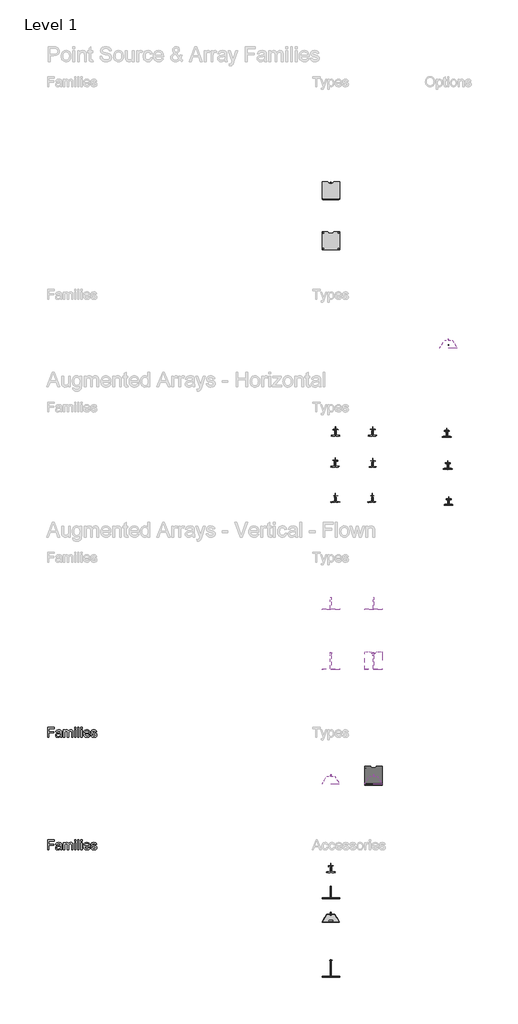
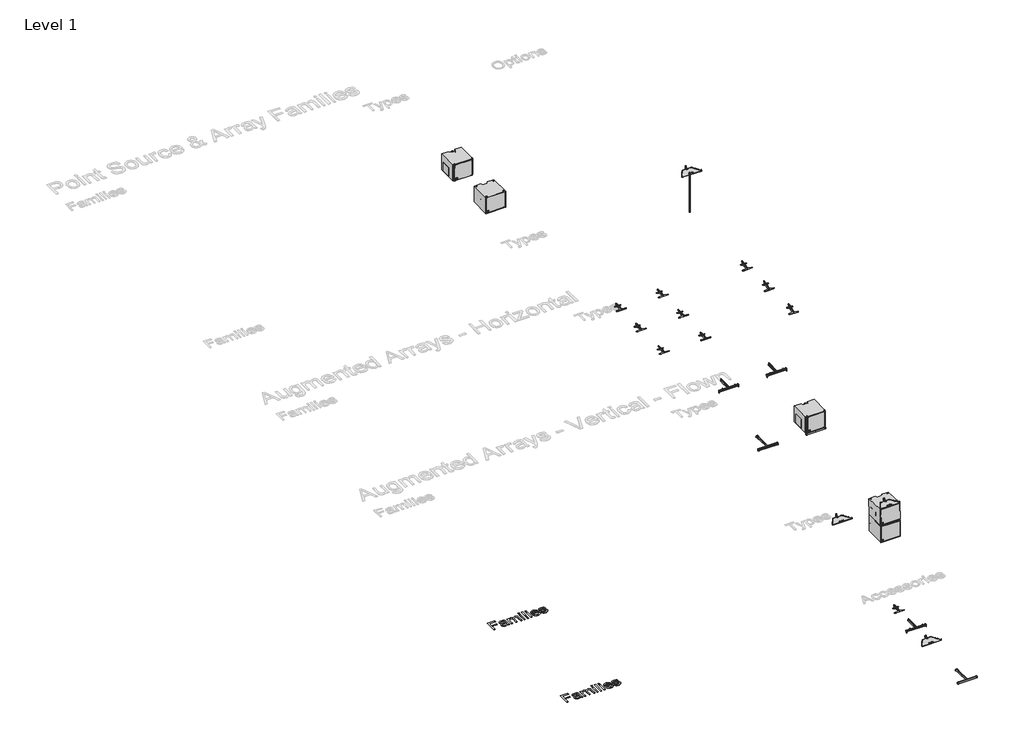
# One storey, part 1 of 9: 28 proxies.
"""IFC4 building model written with IfcOpenShell, lengths in millimetres."""

from ifc_helpers import new_model, si_unit, origin, origin_with_axes, place, context, project, spatial, polyline, outline, extrude, transform, mapped, element, save
from components import communication_devices_d743389a, communication_devices_1f0d5030, communication_devices_29ca18c5, communication_devices_07eabc64, communication_devices_387f4dd8, communication_devices_ca37ca75, al_base_plate_bf33ff07, vi_sub_f1fbe36c

model = new_model("IFC4")

# Units and contexts
model_context = context("Model", 3, world=origin())
ifc_project = project(units=[si_unit("LENGTHUNIT", "METRE", prefix="MILLI")], contexts=[model_context])

# Site, building, storey
site = spatial("IfcSite", under=ifc_project)
building = spatial("IfcBuilding", under=site)
storey = spatial("IfcBuildingStorey", under=building, Name="Level 1", Elevation=0.0)

# Proxies
placement = place(None, origin())
communication_devices_shape = communication_devices_d743389a(model_context)
element("IfcBuildingElementProxy", 1, Name="d&b V-Series GSUB Subwoofer : Vi-GSUB", ObjectType="d&b V-Series GSUB Subwoofer : Vi-GSUB", at=placement, inside=storey, context=model_context, shape_type="MappedRepresentation", body=[
    mapped(communication_devices_shape, transform((-9741.6434304, 11188.2017676, 303.0), x_axis=(1.0, 0.0, 0.0), y_axis=(0.0, 1.0, 0.0), z_axis=(0.0, 0.0, 1.0))),
])
communication_devices_2_shape = communication_devices_1f0d5030(model_context)
element("IfcBuildingElementProxy", 2, Name="d&b A-Series Flying Adapter : AL Flying Adapter", ObjectType="d&b A-Series Flying Adapter : AL Flying Adapter", at=placement, inside=storey, context=model_context, shape_type="MappedRepresentation", body=[
    mapped(communication_devices_2_shape, transform((-9741.6434304, -14065.5323526, 0.0), x_axis=(1.0, 0.0, 0.0), y_axis=(0.0, 1.0, 0.0), z_axis=(0.0, 0.0, 1.0))),
])
element("IfcBuildingElementProxy", 3, Name="d&b A-Series Flying Adapter : AL Flying Adapter", ObjectType="d&b A-Series Flying Adapter : AL Flying Adapter", at=placement, inside=storey, context=model_context, shape_type="MappedRepresentation", body=[
    mapped(communication_devices_2_shape, transform((-9556.9615266, 3383.2751554, 700.0), x_axis=(0.9999973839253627, -0.00228738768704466, 0.0), y_axis=(0.00228738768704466, 0.9999973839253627, 0.0), z_axis=(0.0, 0.0, 1.0))),
])
element("IfcBuildingElementProxy", 4, Name="d&b A-Series Flying Adapter : AL Flying Adapter", ObjectType="d&b A-Series Flying Adapter : AL Flying Adapter", at=placement, inside=storey, context=model_context, shape_type="MappedRepresentation", body=[
    mapped(communication_devices_2_shape, transform((-8070.568607, 3383.2833382, 700.0), x_axis=(1.0000000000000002, 0.0, 0.0), y_axis=(0.0, 1.0000000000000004, 0.0), z_axis=(0.0, 0.0, 1.0000000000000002))),
])
element("IfcBuildingElementProxy", 5, Name="d&b A-Series Flying Adapter : AL Flying Adapter", ObjectType="d&b A-Series Flying Adapter : AL Flying Adapter", at=placement, inside=storey, context=model_context, shape_type="MappedRepresentation", body=[
    mapped(communication_devices_2_shape, transform((-9569.4106275, 2143.3603719, 700.0), x_axis=(0.9999596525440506, -0.008982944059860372, 0.0), y_axis=(0.008982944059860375, 0.999959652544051, 0.0), z_axis=(0.0, 0.0, 1.0000000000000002))),
])
element("IfcBuildingElementProxy", 6, Name="d&b A-Series Flying Adapter : AL Flying Adapter", ObjectType="d&b A-Series Flying Adapter : AL Flying Adapter", at=placement, inside=storey, context=model_context, shape_type="MappedRepresentation", body=[
    mapped(communication_devices_2_shape, transform((-8072.1435806, 2129.9919161, 700.0), x_axis=(0.9999596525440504, -0.008982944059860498, 0.0), y_axis=(0.008982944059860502, 0.9999596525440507, 0.0), z_axis=(0.0, 0.0, 1.0000000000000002))),
])
element("IfcBuildingElementProxy", 7, Name="d&b A-Series Flying Adapter : AL Flying Adapter", ObjectType="d&b A-Series Flying Adapter : AL Flying Adapter", at=placement, inside=storey, context=model_context, shape_type="MappedRepresentation", body=[
    mapped(communication_devices_2_shape, transform((-9566.0910558, 732.3702572, 700.0), x_axis=(1.0000000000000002, 0.0, 0.0), y_axis=(0.0, 1.0000000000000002, 0.0), z_axis=(0.0, 0.0, 1.0))),
])
element("IfcBuildingElementProxy", 8, Name="d&b A-Series Flying Adapter : AL Flying Adapter", ObjectType="d&b A-Series Flying Adapter : AL Flying Adapter", at=placement, inside=storey, context=model_context, shape_type="MappedRepresentation", body=[
    mapped(communication_devices_2_shape, transform((-5035.4452188, 617.9984364, 671.5161872), x_axis=(0.9959601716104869, 0.015076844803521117, -0.08852132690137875), y_axis=(0.01507684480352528, 0.9437324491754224, 0.33036608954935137), z_axis=(0.08852132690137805, -0.3303660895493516, 0.9396926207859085))),
])
element("IfcBuildingElementProxy", 9, Name="d&b A-Series Flying Adapter : AL Flying Adapter", ObjectType="d&b A-Series Flying Adapter : AL Flying Adapter", at=placement, inside=storey, context=model_context, shape_type="MappedRepresentation", body=[
    mapped(communication_devices_2_shape, transform((-5070.2233417, 2052.336386, 691.4233736), x_axis=(0.9999596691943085, -0.008981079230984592, -1.4165346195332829e-05), y_axis=(0.008678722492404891, 0.9658868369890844, 0.2588190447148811), z_axis=(-0.002310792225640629, -0.25880872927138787, 0.9659258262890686))),
])
element("IfcBuildingElementProxy", 10, Name="d&b A-Series Flying Adapter : AL Flying Adapter", ObjectType="d&b A-Series Flying Adapter : AL Flying Adapter", at=placement, inside=storey, context=model_context, shape_type="MappedRepresentation", body=[
    mapped(communication_devices_2_shape, transform((-5107.1147375, 3333.9786751, 702.8520893), x_axis=(0.9998666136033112, -0.001417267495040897, 0.016271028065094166), y_axis=(-0.00141726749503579, 0.9849411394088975, 0.17288419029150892), z_axis=(-0.016271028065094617, -0.1728841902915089, 0.9848077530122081))),
])
element("IfcBuildingElementProxy", 11, Name="d&b A-Series Flying Adapter : AL Flying Adapter", ObjectType="d&b A-Series Flying Adapter : AL Flying Adapter", at=placement, inside=storey, context=model_context, shape_type="MappedRepresentation", body=[
    mapped(communication_devices_2_shape, transform((-8084.6011527, 732.3702572, 700.0), x_axis=(1.0000000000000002, 0.0, 0.0), y_axis=(0.0, 1.0000000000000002, 0.0), z_axis=(0.0, 0.0, 1.0))),
])
communication_devices_3_shape = communication_devices_29ca18c5(model_context)
communication_devices_4_shape = communication_devices_07eabc64(model_context)
element("IfcBuildingElementProxy", 12, Name="d&b A-Series Flying Frame : AL Flying Frame", ObjectType="d&b A-Series Flying Frame : AL Flying Frame", at=placement, inside=storey, context=model_context, shape_type="MappedRepresentation", body=[
    mapped(communication_devices_3_shape, transform((-9741.6434304, -15083.7359869, 0.0), x_axis=(1.0, 0.0, 0.0), y_axis=(0.0, 1.0, 0.0), z_axis=(0.0, 0.0, 1.0))),
    mapped(communication_devices_4_shape, transform((-9741.6434304, -15083.7359869, 0.0), x_axis=(1.0, 0.0, 0.0), y_axis=(0.0, 1.0, 0.0), z_axis=(0.0, 0.0, 1.0))),
])
element("IfcBuildingElementProxy", 13, Name="d&b A-Series Flying Frame : AL Flying Frame", ObjectType="d&b A-Series Flying Frame : AL Flying Frame", at=placement, inside=storey, context=model_context, shape_type="MappedRepresentation", body=[
    mapped(communication_devices_3_shape, transform((-9741.6434304, -3539.251531, 2023.0215661), x_axis=(1.0000000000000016, 0.0, 0.0), y_axis=(0.0, 1.0000000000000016, 0.0), z_axis=(0.0, 0.0, 1.0))),
    mapped(communication_devices_4_shape, transform((-9741.6434304, -3539.251531, 2023.0215661), x_axis=(1.0000000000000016, 0.0, 0.0), y_axis=(0.0, 1.0000000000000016, 0.0), z_axis=(0.0, 0.0, 1.0))),
])
element("IfcBuildingElementProxy", 14, Name="d&b A-Series Flying Frame : AL Flying Frame", ObjectType="d&b A-Series Flying Frame : AL Flying Frame", at=placement, inside=storey, context=model_context, shape_type="MappedRepresentation", body=[
    mapped(communication_devices_3_shape, transform((-8041.6434304, -3539.251531, 2023.0215661), x_axis=(1.0000000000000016, 0.0, 0.0), y_axis=(0.0, 1.0000000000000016, 0.0), z_axis=(0.0, 0.0, 1.0))),
    mapped(communication_devices_4_shape, transform((-8041.6434304, -3539.251531, 2023.0215661), x_axis=(1.0000000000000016, 0.0, 0.0), y_axis=(0.0, 1.0000000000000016, 0.0), z_axis=(0.0, 0.0, 1.0))),
])
element("IfcBuildingElementProxy", 15, Name="d&b V-Series GSUB Subwoofer : Vi-GSUB", ObjectType="d&b V-Series GSUB Subwoofer : Vi-GSUB", at=placement, inside=storey, context=model_context, shape_type="MappedRepresentation", body=[
    mapped(communication_devices_shape, transform((-8041.6434304, -10201.2028001, 306.0), x_axis=(1.0000000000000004, 0.0, 0.0), y_axis=(0.0, 1.0000000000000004, 0.0), z_axis=(0.0, 0.0, 1.0))),
])
element("IfcBuildingElementProxy", 16, Name="d&b V-Series GSUB Subwoofer : Vi-GSUB", ObjectType="d&b V-Series GSUB Subwoofer : Vi-GSUB", at=placement, inside=storey, context=model_context, shape_type="MappedRepresentation", body=[
    mapped(communication_devices_shape, transform((-8041.6434304, -10185.1115021, 922.2337467), x_axis=(1.0000000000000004, 0.0, 0.0), y_axis=(0.0, 0.9990482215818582, -0.043619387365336), z_axis=(0.0, 0.04361938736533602, 0.9990482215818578))),
])
communication_devices_5_shape = communication_devices_387f4dd8(model_context)
element("IfcBuildingElementProxy", 17, Name="d&b A-Series AL V-SUB Adapter : AL V-SUB Adapter", ObjectType="d&b A-Series AL V-SUB Adapter : AL V-SUB Adapter", at=placement, inside=storey, context=model_context, shape_type="MappedRepresentation", body=[
    mapped(communication_devices_5_shape, transform((-9741.6434304, -18236.0913937, 0.0), x_axis=(1.0, 0.0, 0.0), y_axis=(0.0, 1.0, 0.0), z_axis=(0.0, 0.0, 1.0))),
])
element("IfcBuildingElementProxy", 18, Name="d&b A-Series AL V-SUB Adapter : AL V-SUB Adapter", ObjectType="d&b A-Series AL V-SUB Adapter : AL V-SUB Adapter", at=placement, inside=storey, context=model_context, shape_type="MappedRepresentation", body=[
    mapped(communication_devices_5_shape, transform((-9741.6434304, -5949.4528001, 1326.0), x_axis=(1.0000000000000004, 0.0, 0.0), y_axis=(0.0, 1.0000000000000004, 0.0), z_axis=(0.0, 0.0, 1.0))),
])
element("IfcBuildingElementProxy", 19, Name="d&b A-Series AL V-SUB Adapter : AL V-SUB Adapter", ObjectType="d&b A-Series AL V-SUB Adapter : AL V-SUB Adapter", at=placement, inside=storey, context=model_context, shape_type="MappedRepresentation", body=[
    mapped(communication_devices_5_shape, transform((-8041.6434304, -5949.4528001, 1326.0), x_axis=(1.0000000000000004, 0.0, 0.0), y_axis=(0.0, 1.0000000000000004, 0.0), z_axis=(0.0, 0.0, 1.0))),
])
communication_devices_6_shape = communication_devices_ca37ca75(model_context)
element("IfcBuildingElementProxy", 20, Name="Loudspeaker Stand : Loudspeaker Stand", ObjectType="Loudspeaker Stand : Loudspeaker Stand", at=placement, inside=storey, context=model_context, shape_type="MappedRepresentation", body=[
    mapped(communication_devices_6_shape, transform((-5041.6434304, 7023.4987875, 603.0), x_axis=(-1.0000000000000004, 0.0, 0.0), y_axis=(0.0, -1.0000000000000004, 0.0), z_axis=(0.0, 0.0, 1.0))),
])
element("IfcBuildingElementProxy", 21, Name="400mm Arial", ObjectType="400mm Arial", at=placement, inside=storey, context=model_context, shape_type="SweptSolid", body=[
    extrude(outline(polyline([(-21056.720891, -8648.6945164), (-21056.720891, -8256.9369407), (-20793.5087698, -8256.9369407), (-20793.5087698, -8305.9066376), (-21007.7511941, -8305.9066376), (-21007.7511941, -8422.2096679), (-20824.1148304, -8422.2096679), (-20824.1148304, -8471.1793649), (-21007.7511941, -8471.1793649), (-21007.7511941, -8648.6945164), (-21056.720891, -8648.6945164)])), origin_with_axes(), (0.0, 0.0, 1.0), 5.0),
    extrude(outline(polyline([(-20548.660285, -8611.9672437), (-20572.0571836, -8632.02856), (-20596.1475009, -8645.1556907), (-20621.4811893, -8652.4007191), (-20648.6082016, -8654.8157285), (-20670.4120309, -8653.3631362), (-20689.5318522, -8649.0053592), (-20705.9676654, -8641.7423976), (-20719.7194706, -8631.5742513), (-20730.5780466, -8619.1465169), (-20738.3341723, -8605.104791), (-20742.9878477, -8589.4490737), (-20744.5390729, -8572.1793649), (-20742.1957963, -8551.8789388), (-20735.1659668, -8533.4435695), (-20724.3223352, -8517.6623195), (-20710.5376524, -8505.3242513), (-20676.2493001, -8489.2560695), (-20633.879035, -8481.8914861), (-20583.8094327, -8474.144327), (-20548.9472168, -8465.0581528), (-20548.660285, -8454.1547437), (-20552.0317338, -8432.3001035), (-20562.1460804, -8418.0013346), (-20584.7658721, -8407.3848573), (-20616.2805501, -8403.8460316), (-20645.4519516, -8406.2012636), (-20665.8241107, -8413.2669596), (-20679.7163929, -8426.3343128), (-20689.4481638, -8446.6945164), (-20738.4178607, -8440.5733043), (-20729.9175056, -8413.7930013), (-20717.2327282, -8392.7513346), (-20699.1799346, -8376.6592418), (-20674.5755312, -8364.7276604), (-20644.4835568, -8357.339166), (-20609.9680501, -8354.8763346), (-20576.8632916, -8357.0522342), (-20550.6209857, -8363.5799331), (-20530.8346458, -8373.3953924), (-20517.097785, -8385.4345732), (-20507.9876997, -8400.3191613), (-20502.0816865, -8418.6708422), (-20499.690588, -8461.519327), (-20499.690588, -8522.4445164), (-20497.2038456, -8607.5198005), (-20487.4481638, -8648.6945164), (-20536.4178607, -8648.6945164), (-20544.2606638, -8631.6698952), (-20548.660285, -8611.9672437)]), holes=[polyline([(-20548.660285, -8514.0278498), (-20581.5618001, -8522.1814956), (-20627.6621789, -8529.0439482), (-20669.7933342, -8536.9823952), (-20680.7565208, -8542.4101888), (-20688.8743001, -8549.894327), (-20693.8956069, -8558.8609464), (-20695.5693759, -8568.7361831), (-20691.9229507, -8583.2979729), (-20680.9836751, -8595.2295543), (-20662.990659, -8603.1919123), (-20638.1830122, -8605.8460316), (-20611.8809289, -8602.9169359), (-20588.6394516, -8594.129649), (-20569.7975956, -8581.1818507), (-20556.6943759, -8565.771221), (-20550.8840066, -8549.894327), (-20548.9472168, -8527.896221), (-20548.660285, -8514.0278498)])]), origin_with_axes(), (0.0, 0.0, 1.0), 5.0),
    extrude(outline(polyline([(-20432.3572547, -8648.6945164), (-20432.3572547, -8360.9975467), (-20383.3875577, -8360.9975467), (-20383.3875577, -8408.3412967), (-20368.658391, -8386.594256), (-20349.720891, -8369.5576793), (-20327.2206543, -8358.5466708), (-20301.8032774, -8354.8763346), (-20274.5686657, -8358.6184037), (-20252.7379365, -8369.8446111), (-20236.4306448, -8387.8137162), (-20225.7663456, -8411.7844785), (-20207.9167954, -8386.8871656), (-20187.5565918, -8369.1033706), (-20164.6857348, -8358.4330936), (-20139.3042244, -8354.8763346), (-20119.7002057, -8356.3558268), (-20102.4932632, -8360.7943034), (-20087.683397, -8368.1917643), (-20075.2706069, -8378.5482096), (-20065.4581365, -8391.9831942), (-20058.4492291, -8408.6162731), (-20054.2438846, -8428.4474461), (-20052.8421032, -8451.4767134), (-20052.8421032, -8648.6945164), (-20101.8118001, -8648.6945164), (-20101.8118001, -8472.5183801), (-20106.3548872, -8431.630596), (-20112.7391202, -8420.3565666), (-20122.8056448, -8411.4975467), (-20135.7534431, -8405.7589104), (-20150.7814971, -8403.8460316), (-20177.3107348, -8408.7477835), (-20198.9382206, -8423.4530392), (-20207.3279874, -8434.7330463), (-20213.320678, -8448.96606), (-20218.1148304, -8486.2911073), (-20218.1148304, -8648.6945164), (-20267.0845274, -8648.6945164), (-20267.0845274, -8467.0666755), (-20269.9179791, -8439.3777551), (-20278.4183342, -8419.6272816), (-20293.3746552, -8407.7913441), (-20315.5760047, -8403.8460316), (-20334.4417717, -8406.4762399), (-20351.8250577, -8414.3668649), (-20366.1716486, -8427.3266187), (-20375.9273304, -8445.1642134), (-20381.5225009, -8469.9120827), (-20383.3875577, -8503.6026604), (-20383.3875577, -8648.6945164), (-20432.3572547, -8648.6945164)])), origin_with_axes(), (0.0, 0.0, 1.0), 5.0),
    extrude(outline(polyline([(-19979.3875577, -8648.6945164), (-19979.3875577, -8360.9975467), (-19930.4178607, -8360.9975467), (-19930.4178607, -8648.6945164), (-19979.3875577, -8648.6945164)])), origin_with_axes(), (0.0, 0.0, 1.0), 5.0),
    extrude(outline(polyline([(-19979.3875577, -8305.9066376), (-19979.3875577, -8256.9369407), (-19930.4178607, -8256.9369407), (-19930.4178607, -8305.9066376), (-19979.3875577, -8305.9066376)])), origin_with_axes(), (0.0, 0.0, 1.0), 5.0),
    extrude(outline(polyline([(-19856.9633153, -8648.6945164), (-19856.9633153, -8256.9369407), (-19807.9936183, -8256.9369407), (-19807.9936183, -8648.6945164), (-19856.9633153, -8648.6945164)])), origin_with_axes(), (0.0, 0.0, 1.0), 5.0),
    extrude(outline(polyline([(-19734.5390729, -8648.6945164), (-19734.5390729, -8360.9975467), (-19685.5693759, -8360.9975467), (-19685.5693759, -8648.6945164), (-19734.5390729, -8648.6945164)])), origin_with_axes(), (0.0, 0.0, 1.0), 5.0),
    extrude(outline(polyline([(-19734.5390729, -8305.9066376), (-19734.5390729, -8256.9369407), (-19685.5693759, -8256.9369407), (-19685.5693759, -8305.9066376), (-19734.5390729, -8305.9066376)])), origin_with_axes(), (0.0, 0.0, 1.0), 5.0),
    extrude(outline(polyline([(-19410.6886941, -8562.9975467), (-19362.6754365, -8569.1187589), (-19370.0370309, -8588.3491684), (-19379.975034, -8605.2960789), (-19392.4894457, -8619.9594904), (-19407.580266, -8632.3394028), (-19425.0920736, -8642.1727953), (-19444.8694469, -8649.1966471), (-19491.220891, -8654.8157285), (-19521.605775, -8652.3917525), (-19548.6789876, -8645.1198242), (-19572.4405288, -8632.9999437), (-19592.8903986, -8616.0321111), (-19609.3351784, -8594.6885683), (-19621.0814497, -8569.4415571), (-19628.1292125, -8540.2910777), (-19630.4784668, -8507.2371301), (-19628.1053015, -8473.062355), (-19620.9858058, -8442.9404918), (-19609.1199796, -8416.8715406), (-19592.5078229, -8394.8555013), (-19572.1117528, -8377.3646159), (-19548.8941865, -8364.8711263), (-19522.855124, -8357.3750325), (-19493.9945653, -8354.8763346), (-19466.0635461, -8357.3690548), (-19440.8045795, -8364.8472153), (-19418.2176654, -8377.3108161), (-19398.3028039, -8394.7598573), (-19382.0463231, -8416.7280747), (-19370.4345511, -8442.7492039), (-19363.4674879, -8472.8232451), (-19361.1451335, -8506.9501982), (-19361.4320653, -8520.1490619), (-19581.5087698, -8520.1490619), (-19578.6723292, -8539.6903142), (-19573.0323257, -8556.8046017), (-19564.5887592, -8571.4919241), (-19553.3416297, -8583.7522816), (-19524.9234242, -8600.3225941), (-19490.2644516, -8605.8460316), (-19464.2014782, -8603.2875562), (-19442.2511941, -8595.6121301), (-19424.4135994, -8582.3415335), (-19410.6886941, -8562.9975467)]), holes=[polyline([(-19581.5087698, -8471.1793649), (-19410.1148304, -8471.1793649), (-19416.7381732, -8445.3076793), (-19429.721838, -8426.800577), (-19443.076123, -8416.7579634), (-19458.2715539, -8409.5846679), (-19494.1858532, -8403.8460316), (-19527.1949677, -8408.4249852), (-19554.4893569, -8422.161846), (-19573.4627234, -8443.5741329), (-19581.5087698, -8471.1793649)])]), origin_with_axes(), (0.0, 0.0, 1.0), 5.0),
    extrude(outline(polyline([(-19330.5390729, -8562.9975467), (-19281.5693759, -8556.8763346), (-19273.8461278, -8577.8223573), (-19258.9017622, -8593.2210316), (-19236.6406354, -8602.6897816), (-19206.9671032, -8605.8460316), (-19177.6522357, -8602.9528024), (-19157.0409668, -8594.2731149), (-19144.8463645, -8581.6959369), (-19140.7814971, -8567.1102361), (-19144.8702755, -8554.628702), (-19157.1366107, -8545.1121301), (-19207.5409668, -8531.1481149), (-19281.2824441, -8507.1893081), (-19299.9449677, -8495.1501272), (-19313.4666297, -8479.2134558), (-19321.680053, -8460.3955107), (-19324.4178607, -8439.7125089), (-19322.2180501, -8420.7391424), (-19315.6186183, -8403.224346), (-19305.2173399, -8387.8615382), (-19291.6119895, -8375.3441376), (-19260.4798872, -8360.8540808), (-19218.3487319, -8354.8763346), (-19186.4753891, -8357.2793886), (-19158.7625577, -8364.4885505), (-19136.4775198, -8375.7984464), (-19120.8875577, -8390.503702), (-19110.5580122, -8409.6922674), (-19104.0542244, -8434.4520922), (-19153.0239213, -8440.5733043), (-19159.2049109, -8425.1626746), (-19171.4353797, -8413.5538914), (-19189.8348825, -8406.2729965), (-19214.5229744, -8403.8460316), (-19242.6422925, -8406.1653971), (-19261.3885047, -8413.1234937), (-19271.933249, -8423.1661073), (-19275.4481638, -8434.739024), (-19269.6138835, -8448.989971), (-19251.345891, -8459.7977361), (-19209.1669138, -8470.2229255), (-19137.2904933, -8493.2731149), (-19118.3051713, -8504.2960789), (-19103.9107585, -8519.3839104), (-19094.8365397, -8538.5844312), (-19091.8118001, -8561.9454634), (-19095.3625814, -8586.0955581), (-19106.0149251, -8608.8109937), (-19123.3623446, -8628.3104018), (-19146.9983532, -8642.8124142), (-19175.5480691, -8651.8149), (-19207.6366107, -8654.8157285), (-19233.9924938, -8653.369114), (-19257.0127944, -8649.0292702), (-19276.6975127, -8641.7961973), (-19293.0466486, -8631.6698952), (-19306.4009336, -8618.6981859), (-19317.1010994, -8602.9288914), (-19325.1471458, -8584.3620117), (-19330.5390729, -8562.9975467)])), origin_with_axes(), (0.0, 0.0, 1.0), 5.0),
])
element("IfcBuildingElementProxy", 22, Name="400mm Arial", ObjectType="400mm Arial", at=placement, inside=storey, context=model_context, shape_type="SweptSolid", body=[
    extrude(outline(polyline([(-21056.720891, -13148.6945164), (-21056.720891, -12756.9369407), (-20793.5087698, -12756.9369407), (-20793.5087698, -12805.9066376), (-21007.7511941, -12805.9066376), (-21007.7511941, -12922.2096679), (-20824.1148304, -12922.2096679), (-20824.1148304, -12971.1793649), (-21007.7511941, -12971.1793649), (-21007.7511941, -13148.6945164), (-21056.720891, -13148.6945164)])), origin_with_axes(), (0.0, 0.0, 1.0), 5.0),
    extrude(outline(polyline([(-20548.660285, -13111.9672437), (-20572.0571836, -13132.02856), (-20596.1475009, -13145.1556907), (-20621.4811893, -13152.4007191), (-20648.6082016, -13154.8157285), (-20670.4120309, -13153.3631362), (-20689.5318522, -13149.0053592), (-20705.9676654, -13141.7423976), (-20719.7194706, -13131.5742513), (-20730.5780466, -13119.1465169), (-20738.3341723, -13105.104791), (-20742.9878477, -13089.4490737), (-20744.5390729, -13072.1793649), (-20742.1957963, -13051.8789388), (-20735.1659668, -13033.4435695), (-20724.3223352, -13017.6623195), (-20710.5376524, -13005.3242513), (-20676.2493001, -12989.2560695), (-20633.879035, -12981.8914861), (-20583.8094327, -12974.144327), (-20548.9472168, -12965.0581528), (-20548.660285, -12954.1547437), (-20552.0317338, -12932.3001035), (-20562.1460804, -12918.0013346), (-20584.7658721, -12907.3848573), (-20616.2805501, -12903.8460316), (-20645.4519516, -12906.2012636), (-20665.8241107, -12913.2669596), (-20679.7163929, -12926.3343128), (-20689.4481638, -12946.6945164), (-20738.4178607, -12940.5733043), (-20729.9175056, -12913.7930013), (-20717.2327282, -12892.7513346), (-20699.1799346, -12876.6592418), (-20674.5755312, -12864.7276604), (-20644.4835568, -12857.339166), (-20609.9680501, -12854.8763346), (-20576.8632916, -12857.0522342), (-20550.6209857, -12863.5799331), (-20530.8346458, -12873.3953924), (-20517.097785, -12885.4345732), (-20507.9876997, -12900.3191613), (-20502.0816865, -12918.6708422), (-20499.690588, -12961.519327), (-20499.690588, -13022.4445164), (-20497.2038456, -13107.5198005), (-20487.4481638, -13148.6945164), (-20536.4178607, -13148.6945164), (-20544.2606638, -13131.6698952), (-20548.660285, -13111.9672437)]), holes=[polyline([(-20548.660285, -13014.0278498), (-20581.5618001, -13022.1814956), (-20627.6621789, -13029.0439482), (-20669.7933342, -13036.9823952), (-20680.7565208, -13042.4101888), (-20688.8743001, -13049.894327), (-20693.8956069, -13058.8609464), (-20695.5693759, -13068.7361831), (-20691.9229507, -13083.2979729), (-20680.9836751, -13095.2295543), (-20662.990659, -13103.1919123), (-20638.1830122, -13105.8460316), (-20611.8809289, -13102.9169359), (-20588.6394516, -13094.129649), (-20569.7975956, -13081.1818507), (-20556.6943759, -13065.771221), (-20550.8840066, -13049.894327), (-20548.9472168, -13027.896221), (-20548.660285, -13014.0278498)])]), origin_with_axes(), (0.0, 0.0, 1.0), 5.0),
    extrude(outline(polyline([(-20432.3572547, -13148.6945164), (-20432.3572547, -12860.9975467), (-20383.3875577, -12860.9975467), (-20383.3875577, -12908.3412967), (-20368.658391, -12886.594256), (-20349.720891, -12869.5576793), (-20327.2206543, -12858.5466708), (-20301.8032774, -12854.8763346), (-20274.5686657, -12858.6184037), (-20252.7379365, -12869.8446111), (-20236.4306448, -12887.8137162), (-20225.7663456, -12911.7844785), (-20207.9167954, -12886.8871656), (-20187.5565918, -12869.1033706), (-20164.6857348, -12858.4330936), (-20139.3042244, -12854.8763346), (-20119.7002057, -12856.3558268), (-20102.4932632, -12860.7943034), (-20087.683397, -12868.1917643), (-20075.2706069, -12878.5482096), (-20065.4581365, -12891.9831942), (-20058.4492291, -12908.6162731), (-20054.2438846, -12928.4474461), (-20052.8421032, -12951.4767134), (-20052.8421032, -13148.6945164), (-20101.8118001, -13148.6945164), (-20101.8118001, -12972.5183801), (-20106.3548872, -12931.630596), (-20112.7391202, -12920.3565666), (-20122.8056448, -12911.4975467), (-20135.7534431, -12905.7589104), (-20150.7814971, -12903.8460316), (-20177.3107348, -12908.7477835), (-20198.9382206, -12923.4530392), (-20207.3279874, -12934.7330463), (-20213.320678, -12948.96606), (-20218.1148304, -12986.2911073), (-20218.1148304, -13148.6945164), (-20267.0845274, -13148.6945164), (-20267.0845274, -12967.0666755), (-20269.9179791, -12939.3777551), (-20278.4183342, -12919.6272816), (-20293.3746552, -12907.7913441), (-20315.5760047, -12903.8460316), (-20334.4417717, -12906.4762399), (-20351.8250577, -12914.3668649), (-20366.1716486, -12927.3266187), (-20375.9273304, -12945.1642134), (-20381.5225009, -12969.9120827), (-20383.3875577, -13003.6026604), (-20383.3875577, -13148.6945164), (-20432.3572547, -13148.6945164)])), origin_with_axes(), (0.0, 0.0, 1.0), 5.0),
    extrude(outline(polyline([(-19979.3875577, -13148.6945164), (-19979.3875577, -12860.9975467), (-19930.4178607, -12860.9975467), (-19930.4178607, -13148.6945164), (-19979.3875577, -13148.6945164)])), origin_with_axes(), (0.0, 0.0, 1.0), 5.0),
    extrude(outline(polyline([(-19979.3875577, -12805.9066376), (-19979.3875577, -12756.9369407), (-19930.4178607, -12756.9369407), (-19930.4178607, -12805.9066376), (-19979.3875577, -12805.9066376)])), origin_with_axes(), (0.0, 0.0, 1.0), 5.0),
    extrude(outline(polyline([(-19856.9633153, -13148.6945164), (-19856.9633153, -12756.9369407), (-19807.9936183, -12756.9369407), (-19807.9936183, -13148.6945164), (-19856.9633153, -13148.6945164)])), origin_with_axes(), (0.0, 0.0, 1.0), 5.0),
    extrude(outline(polyline([(-19734.5390729, -13148.6945164), (-19734.5390729, -12860.9975467), (-19685.5693759, -12860.9975467), (-19685.5693759, -13148.6945164), (-19734.5390729, -13148.6945164)])), origin_with_axes(), (0.0, 0.0, 1.0), 5.0),
    extrude(outline(polyline([(-19734.5390729, -12805.9066376), (-19734.5390729, -12756.9369407), (-19685.5693759, -12756.9369407), (-19685.5693759, -12805.9066376), (-19734.5390729, -12805.9066376)])), origin_with_axes(), (0.0, 0.0, 1.0), 5.0),
    extrude(outline(polyline([(-19410.6886941, -13062.9975467), (-19362.6754365, -13069.1187589), (-19370.0370309, -13088.3491684), (-19379.975034, -13105.2960789), (-19392.4894457, -13119.9594904), (-19407.580266, -13132.3394028), (-19425.0920736, -13142.1727953), (-19444.8694469, -13149.1966471), (-19491.220891, -13154.8157285), (-19521.605775, -13152.3917525), (-19548.6789876, -13145.1198242), (-19572.4405288, -13132.9999437), (-19592.8903986, -13116.0321111), (-19609.3351784, -13094.6885683), (-19621.0814497, -13069.4415571), (-19628.1292125, -13040.2910777), (-19630.4784668, -13007.2371301), (-19628.1053015, -12973.062355), (-19620.9858058, -12942.9404918), (-19609.1199796, -12916.8715406), (-19592.5078229, -12894.8555013), (-19572.1117528, -12877.3646159), (-19548.8941865, -12864.8711263), (-19522.855124, -12857.3750325), (-19493.9945653, -12854.8763346), (-19466.0635461, -12857.3690548), (-19440.8045795, -12864.8472153), (-19418.2176654, -12877.3108161), (-19398.3028039, -12894.7598573), (-19382.0463231, -12916.7280747), (-19370.4345511, -12942.7492039), (-19363.4674879, -12972.8232451), (-19361.1451335, -13006.9501982), (-19361.4320653, -13020.1490619), (-19581.5087698, -13020.1490619), (-19578.6723292, -13039.6903142), (-19573.0323257, -13056.8046017), (-19564.5887592, -13071.4919241), (-19553.3416297, -13083.7522816), (-19524.9234242, -13100.3225941), (-19490.2644516, -13105.8460316), (-19464.2014782, -13103.2875562), (-19442.2511941, -13095.6121301), (-19424.4135994, -13082.3415335), (-19410.6886941, -13062.9975467)]), holes=[polyline([(-19581.5087698, -12971.1793649), (-19410.1148304, -12971.1793649), (-19416.7381732, -12945.3076793), (-19429.721838, -12926.800577), (-19443.076123, -12916.7579634), (-19458.2715539, -12909.5846679), (-19494.1858532, -12903.8460316), (-19527.1949677, -12908.4249852), (-19554.4893569, -12922.161846), (-19573.4627234, -12943.5741329), (-19581.5087698, -12971.1793649)])]), origin_with_axes(), (0.0, 0.0, 1.0), 5.0),
    extrude(outline(polyline([(-19330.5390729, -13062.9975467), (-19281.5693759, -13056.8763346), (-19273.8461278, -13077.8223573), (-19258.9017622, -13093.2210316), (-19236.6406354, -13102.6897816), (-19206.9671032, -13105.8460316), (-19177.6522357, -13102.9528024), (-19157.0409668, -13094.2731149), (-19144.8463645, -13081.6959369), (-19140.7814971, -13067.1102361), (-19144.8702755, -13054.628702), (-19157.1366107, -13045.1121301), (-19207.5409668, -13031.1481149), (-19281.2824441, -13007.1893081), (-19299.9449677, -12995.1501272), (-19313.4666297, -12979.2134558), (-19321.680053, -12960.3955107), (-19324.4178607, -12939.7125089), (-19322.2180501, -12920.7391424), (-19315.6186183, -12903.224346), (-19305.2173399, -12887.8615382), (-19291.6119895, -12875.3441376), (-19260.4798872, -12860.8540808), (-19218.3487319, -12854.8763346), (-19186.4753891, -12857.2793886), (-19158.7625577, -12864.4885505), (-19136.4775198, -12875.7984464), (-19120.8875577, -12890.503702), (-19110.5580122, -12909.6922674), (-19104.0542244, -12934.4520922), (-19153.0239213, -12940.5733043), (-19159.2049109, -12925.1626746), (-19171.4353797, -12913.5538914), (-19189.8348825, -12906.2729965), (-19214.5229744, -12903.8460316), (-19242.6422925, -12906.1653971), (-19261.3885047, -12913.1234937), (-19271.933249, -12923.1661073), (-19275.4481638, -12934.739024), (-19269.6138835, -12948.989971), (-19251.345891, -12959.7977361), (-19209.1669138, -12970.2229255), (-19137.2904933, -12993.2731149), (-19118.3051713, -13004.2960789), (-19103.9107585, -13019.3839104), (-19094.8365397, -13038.5844312), (-19091.8118001, -13061.9454634), (-19095.3625814, -13086.0955581), (-19106.0149251, -13108.8109937), (-19123.3623446, -13128.3104018), (-19146.9983532, -13142.8124142), (-19175.5480691, -13151.8149), (-19207.6366107, -13154.8157285), (-19233.9924938, -13153.369114), (-19257.0127944, -13149.0292702), (-19276.6975127, -13141.7961973), (-19293.0466486, -13131.6698952), (-19306.4009336, -13118.6981859), (-19317.1010994, -13102.9288914), (-19325.1471458, -13084.3620117), (-19330.5390729, -13062.9975467)])), origin_with_axes(), (0.0, 0.0, 1.0), 5.0),
])
al_base_plate_shape = al_base_plate_bf33ff07(model_context)
element("IfcBuildingElementProxy", 23, Name="d&b A-Series Base Plate : AL Base Plate", ObjectType="d&b A-Series Base Plate : AL Base Plate", at=placement, inside=storey, context=model_context, shape_type="MappedRepresentation", body=[
    mapped(al_base_plate_shape, transform((-9741.6434304, -16043.7359869, 0.0), x_axis=(1.0, 0.0, 0.0), y_axis=(0.0, 1.0, 0.0), z_axis=(0.0, 0.0, 1.0))),
])
element("IfcBuildingElementProxy", 24, Name="d&b A-Series Base Plate : AL Base Plate", ObjectType="d&b A-Series Base Plate : AL Base Plate", at=placement, inside=storey, context=model_context, shape_type="MappedRepresentation", body=[
    mapped(al_base_plate_shape, transform((-9741.6434304, -10533.9309042, 1237.7493363), x_axis=(1.0000000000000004, 0.0, 0.0), y_axis=(0.0, 0.9990482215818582, -0.0436193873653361), z_axis=(0.0, 0.04361938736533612, 0.9990482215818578))),
])
element("IfcBuildingElementProxy", 25, Name="d&b A-Series Base Plate : AL Base Plate", ObjectType="d&b A-Series Base Plate : AL Base Plate", at=placement, inside=storey, context=model_context, shape_type="MappedRepresentation", body=[
    mapped(al_base_plate_shape, transform((-8041.6434304, -10533.9309042, 1237.7493363), x_axis=(1.0000000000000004, 0.0, 0.0), y_axis=(0.0, 0.9990482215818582, -0.0436193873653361), z_axis=(0.0, 0.04361938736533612, 0.9990482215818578))),
])
element("IfcBuildingElementProxy", 26, Name="d&b A-Series Base Plate : AL Base Plate", ObjectType="d&b A-Series Base Plate : AL Base Plate", at=placement, inside=storey, context=model_context, shape_type="MappedRepresentation", body=[
    mapped(al_base_plate_shape, transform((-5041.6434304, 6884.3161674, 2107.0), x_axis=(1.0, 0.0, 0.0), y_axis=(0.0, 1.0, 0.0), z_axis=(0.0, 0.0, 1.0))),
])
vi_sub_shape = vi_sub_f1fbe36c(model_context)
element("IfcBuildingElementProxy", 27, Name="d&b V-Series Subwoofer : Vi Sub", ObjectType="d&b V-Series Subwoofer : Vi Sub", at=placement, inside=storey, context=model_context, shape_type="MappedRepresentation", body=[
    mapped(vi_sub_shape, transform((-9741.6434304, 13188.2017676, 303.0), x_axis=(1.0, 0.0, 0.0), y_axis=(0.0, -1.0, 0.0), z_axis=(0.0, 0.0, -1.0))),
])
element("IfcBuildingElementProxy", 28, Name="d&b V-Series Subwoofer : Vi Sub", ObjectType="d&b V-Series Subwoofer : Vi Sub", at=placement, inside=storey, context=model_context, shape_type="MappedRepresentation", body=[
    mapped(vi_sub_shape, transform((-8041.6434304, -5601.2487699, 1615.5), x_axis=(1.0000000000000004, 0.0, 0.0), y_axis=(0.0, -1.0000000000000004, 0.0), z_axis=(0.0, 0.0, -1.0))),
])

save(model, "model.ifc")
